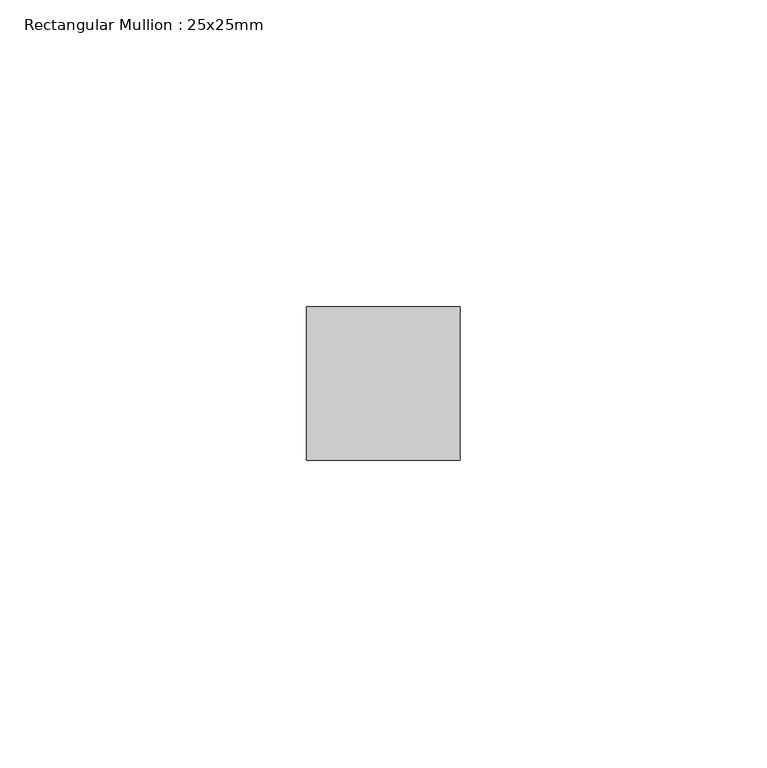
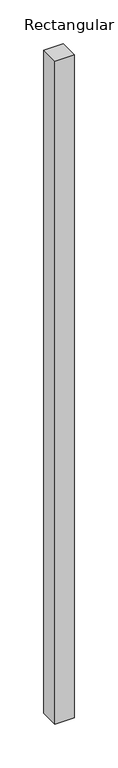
"""IFC4 building model written with IfcOpenShell, lengths in millimetres: member geometry, Rectangular Mullion : 25x25mm."""

from ifc_helpers import new_model, si_unit, frame, origin, place, context, project, spatial, polyline, outline, extrude, source, transform, mapped, element, save


def rectangular_mullion_25x25mm_6f424638(model_context):
    return source(origin(), model_context, "Body", "SweptSolid", [
        extrude(outline(polyline([(12.5, 24.5), (12.5, -0.5), (-12.5, -0.5), (-12.5, 24.5), (12.5, 24.5)])), frame((0.0, 0.0, -920.0), z_axis=(0.0, 0.0, 1.0), x_axis=(1.0, 0.0, 0.0)), (0.0, 0.0, 1.0), 920.0),
    ])


if __name__ == "__main__":
    model = new_model("IFC4")
    model_context = context("Model", 3, world=origin())
    ifc_project = project(units=[si_unit("LENGTHUNIT", "METRE", prefix="MILLI")], contexts=[model_context])
    site = spatial("IfcSite", under=ifc_project)
    building = spatial("IfcBuilding", under=site)
    placement = place(None, origin())
    rectangular_mullion_25x25mm_shape = rectangular_mullion_25x25mm_6f424638(model_context)
    element("IfcMember", 1, ObjectType="Rectangular Mullion : 25x25mm", at=placement, inside=building, context=model_context, shape_type="MappedRepresentation", body=[
        mapped(rectangular_mullion_25x25mm_shape, transform((0.0, 0.0, 0.0), x_axis=(1.0, 0.0, 0.0), y_axis=(0.0, 1.0, 0.0), z_axis=(0.0, 0.0, 1.0))),
    ])
    save(model, "model.ifc")
